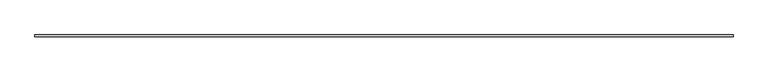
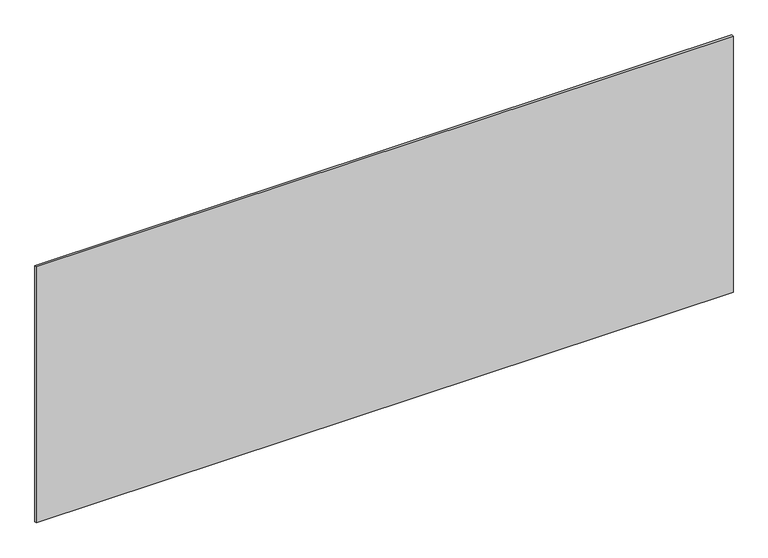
"""IFC4 building model written with IfcOpenShell, lengths in millimetres: plate geometry, システム パネル : 標準."""

from ifc_helpers import new_model, si_unit, origin, origin_with_axes, place, context, project, spatial, polyline, outline, extrude, source, transform, mapped, element, save


def plate_2ab002e3(model_context):
    return source(origin(), model_context, "Body", "SweptSolid", [
        extrude(outline(polyline([(1697.5, -5.0), (-1697.5, -5.0), (-1697.5, 5.0), (1697.5, 5.0), (1697.5, -5.0)])), origin_with_axes(), (0.0, 0.0, 1.0), 1318.3749289),
    ])


if __name__ == "__main__":
    model = new_model("IFC4")
    model_context = context("Model", 3, world=origin())
    ifc_project = project(units=[si_unit("LENGTHUNIT", "METRE", prefix="MILLI")], contexts=[model_context])
    site = spatial("IfcSite", under=ifc_project)
    building = spatial("IfcBuilding", under=site)
    placement = place(None, origin())
    plate_shape = plate_2ab002e3(model_context)
    element("IfcPlate", 1, ObjectType="システム パネル : 標準", at=placement, inside=building, context=model_context, shape_type="MappedRepresentation", body=[
        mapped(plate_shape, transform((0.0, 0.0, 0.0), x_axis=(1.0, 0.0, 0.0), y_axis=(0.0, 1.0, 0.0), z_axis=(0.0, 0.0, 1.0))),
    ])
    save(model, "model.ifc")
